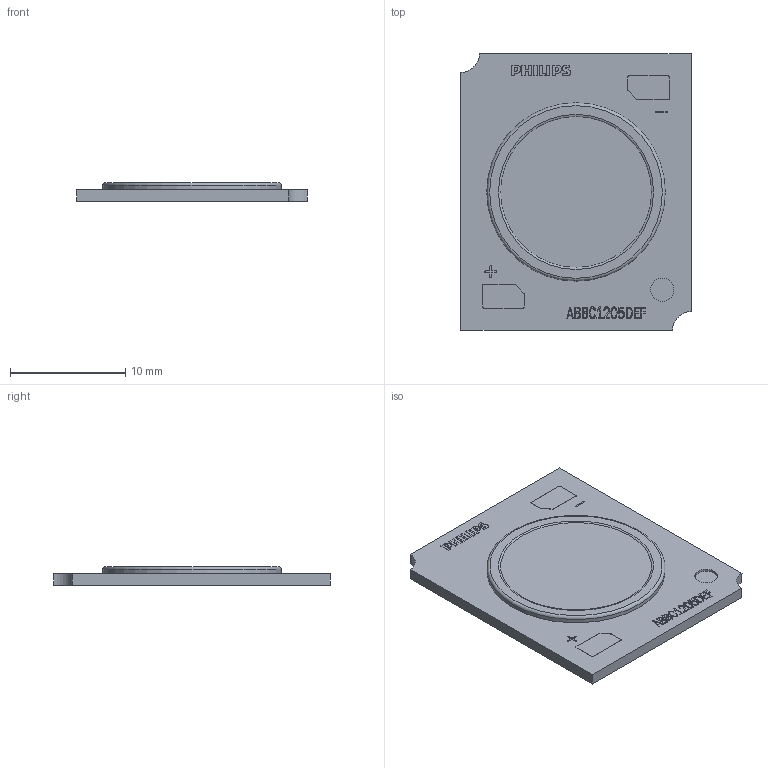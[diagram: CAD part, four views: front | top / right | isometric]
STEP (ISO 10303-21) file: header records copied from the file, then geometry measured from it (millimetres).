
FILE_DESCRIPTION(/* description */ (''),/* implementation_level */ '2;1');
FILE_NAME(/* name */ 'G7 HE+ 1205 1206.stp',/* time_stamp */ '2023-03-14T18:10:18+08:00',/* author */ (''),/* organization */ (''),/* preprocessor_version */ 'ST-DEVELOPER v16',/* originating_system */ 'SIEMENS PLM Software NX 10.0',/* authorisation */ '');
FILE_SCHEMA (('AUTOMOTIVE_DESIGN { 1 0 10303 214 3 1 1 1 }'));
Length unit declared in the file: millimetre
Products named in the file (1): 31003E3C1351hwmz
Bounding box: 20 x 24 x 1.6 mm (x, y, z)
Volume: 577.8 mm3; surface area: 1066.1 mm2
Topology: 1 solids, 1 shells, 451 faces, 1243 edges, 829 vertices
Faces by surface type: plane 397, cylinder 27, extrusion 25, torus 2
Full cylindrical faces by diameter (mm): 15.5 x1
Entity records: 15031 total; most frequent: CARTESIAN_POINT 3642, ORIENTED_EDGE 2476, DIRECTION 1990, EDGE_CURVE 1238, VECTOR 1022, LINE 997, VERTEX_POINT 827, EDGE_LOOP 489
